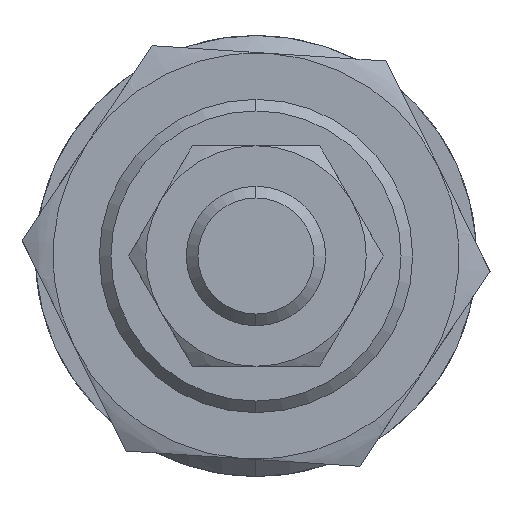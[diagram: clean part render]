
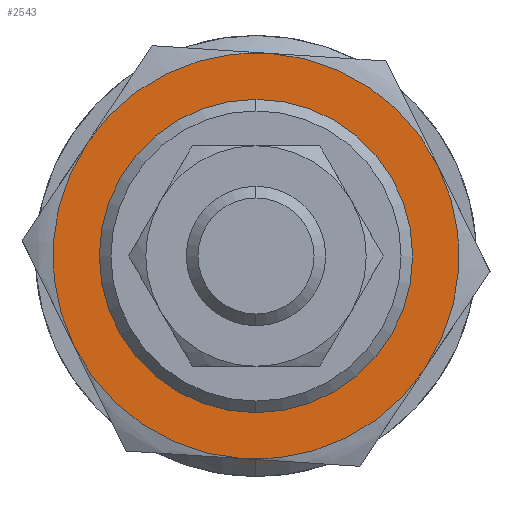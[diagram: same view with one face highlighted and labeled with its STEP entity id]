
A CAD part, left-side view. The second image highlights one B-rep face of the part: STEP entity #2543.
In plain terms, the highlighted planar face has unit normal (-1, 0, 0) as drawn and (0, 0, -1) by its records, which use the part's own axes.
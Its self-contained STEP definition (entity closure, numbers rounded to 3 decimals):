
#61 = ORIENTED_EDGE ( 'NONE', *, *, #421, .F. ) ;
#71 = CARTESIAN_POINT ( 'NONE',  ( 0., 0., -5. ) ) ;
#254 = CARTESIAN_POINT ( 'NONE',  ( 0., 0., -5. ) ) ;
#306 = DIRECTION ( 'NONE',  ( 1., 0., 0. ) ) ;
#421 = EDGE_CURVE ( 'NONE', #456, #948, #542, .T. ) ;
#456 = VERTEX_POINT ( 'NONE', #1793 ) ;
#495 = EDGE_CURVE ( 'NONE', #1187, #1467, #1691, .T. ) ;
#501 = CARTESIAN_POINT ( 'NONE',  ( 0., 0., -5. ) ) ;
#517 = AXIS2_PLACEMENT_3D ( 'NONE', #2737, #2584, #1048 ) ;
#542 = CIRCLE ( 'NONE', #2486, 17.5 ) ;
#544 = CIRCLE ( 'NONE', #677, 17.5 ) ;
#545 = CIRCLE ( 'NONE', #2027, 17.5 ) ;
#597 = CIRCLE ( 'NONE', #1184, 12.5 ) ;
#667 = CARTESIAN_POINT ( 'NONE',  ( 8.75, 15.155, -5. ) ) ;
#677 = AXIS2_PLACEMENT_3D ( 'NONE', #501, #1468, #1022 ) ;
#691 = CARTESIAN_POINT ( 'NONE',  ( 0., 0., -5. ) ) ;
#753 = EDGE_CURVE ( 'NONE', #2245, #456, #544, .T. ) ;
#853 = DIRECTION ( 'NONE',  ( 0., 0., 1. ) ) ;
#859 = CARTESIAN_POINT ( 'NONE',  ( 0., 0., -5. ) ) ;
#948 = VERTEX_POINT ( 'NONE', #667 ) ;
#952 = CARTESIAN_POINT ( 'NONE',  ( -8.75, -15.155, -5. ) ) ;
#1022 = DIRECTION ( 'NONE',  ( 1., 0., 0. ) ) ;
#1048 = DIRECTION ( 'NONE',  ( 1., 0., 0. ) ) ;
#1059 = DIRECTION ( 'NONE',  ( 0., 0., 1. ) ) ;
#1064 = EDGE_CURVE ( 'NONE', #3292, #3156, #1408, .T. ) ;
#1184 = AXIS2_PLACEMENT_3D ( 'NONE', #2047, #3283, #2494 ) ;
#1187 = VERTEX_POINT ( 'NONE', #1532 ) ;
#1263 = ORIENTED_EDGE ( 'NONE', *, *, #495, .T. ) ;
#1282 = CARTESIAN_POINT ( 'NONE',  ( 0., 0., -5. ) ) ;
#1285 = EDGE_CURVE ( 'NONE', #948, #3292, #545, .T. ) ;
#1338 = DIRECTION ( 'NONE',  ( 1., 0., 0. ) ) ;
#1355 = EDGE_LOOP ( 'NONE', ( #2035, #1263 ) ) ;
#1393 = EDGE_CURVE ( 'NONE', #1467, #1187, #597, .T. ) ;
#1408 = CIRCLE ( 'NONE', #1783, 17.5 ) ;
#1465 = EDGE_LOOP ( 'NONE', ( #61, #1693, #3332, #1801, #2256, #3256 ) ) ;
#1467 = VERTEX_POINT ( 'NONE', #3252 ) ;
#1468 = DIRECTION ( 'NONE',  ( 0., 0., 1. ) ) ;
#1532 = CARTESIAN_POINT ( 'NONE',  ( -12.5, 0., -5. ) ) ;
#1691 = CIRCLE ( 'NONE', #2632, 12.5 ) ;
#1693 = ORIENTED_EDGE ( 'NONE', *, *, #753, .F. ) ;
#1743 = FACE_OUTER_BOUND ( 'NONE', #1465, .T. ) ;
#1751 = DIRECTION ( 'NONE',  ( 0., 0., 1. ) ) ;
#1783 = AXIS2_PLACEMENT_3D ( 'NONE', #71, #2315, #2148 ) ;
#1793 = CARTESIAN_POINT ( 'NONE',  ( 17.5, 0., -5. ) ) ;
#1801 = ORIENTED_EDGE ( 'NONE', *, *, #2222, .F. ) ;
#1901 = EDGE_CURVE ( 'NONE', #1917, #2245, #3398, .T. ) ;
#1910 = CARTESIAN_POINT ( 'NONE',  ( -17.5, 0., -5. ) ) ;
#1917 = VERTEX_POINT ( 'NONE', #952 ) ;
#1932 = CARTESIAN_POINT ( 'NONE',  ( 0., 0., -5. ) ) ;
#2027 = AXIS2_PLACEMENT_3D ( 'NONE', #859, #1751, #2171 ) ;
#2034 = DIRECTION ( 'NONE',  ( 0., 0., 1. ) ) ;
#2035 = ORIENTED_EDGE ( 'NONE', *, *, #1393, .T. ) ;
#2039 = AXIS2_PLACEMENT_3D ( 'NONE', #1282, #3427, #1338 ) ;
#2047 = CARTESIAN_POINT ( 'NONE',  ( 0., 0., -5. ) ) ;
#2098 = CIRCLE ( 'NONE', #517, 17.5 ) ;
#2139 = CARTESIAN_POINT ( 'NONE',  ( 8.75, -15.155, -5. ) ) ;
#2148 = DIRECTION ( 'NONE',  ( 1., 0., 0. ) ) ;
#2171 = DIRECTION ( 'NONE',  ( 1., 0., 0. ) ) ;
#2191 = AXIS2_PLACEMENT_3D ( 'NONE', #1932, #853, #3294 ) ;
#2222 = EDGE_CURVE ( 'NONE', #3156, #1917, #2098, .T. ) ;
#2245 = VERTEX_POINT ( 'NONE', #2139 ) ;
#2256 = ORIENTED_EDGE ( 'NONE', *, *, #1064, .F. ) ;
#2315 = DIRECTION ( 'NONE',  ( 0., 0., 1. ) ) ;
#2437 = FACE_BOUND ( 'NONE', #1355, .T. ) ;
#2486 = AXIS2_PLACEMENT_3D ( 'NONE', #691, #2034, #3212 ) ;
#2494 = DIRECTION ( 'NONE',  ( 1., 0., 0. ) ) ;
#2543 = ADVANCED_FACE ( 'NONE', ( #2437, #1743 ), #3124, .F. ) ;
#2584 = DIRECTION ( 'NONE',  ( 0., 0., 1. ) ) ;
#2632 = AXIS2_PLACEMENT_3D ( 'NONE', #254, #1059, #306 ) ;
#2737 = CARTESIAN_POINT ( 'NONE',  ( 0., 0., -5. ) ) ;
#3124 = PLANE ( 'NONE',  #2191 ) ;
#3156 = VERTEX_POINT ( 'NONE', #1910 ) ;
#3212 = DIRECTION ( 'NONE',  ( 1., 0., 0. ) ) ;
#3252 = CARTESIAN_POINT ( 'NONE',  ( 12.5, 0., -5. ) ) ;
#3256 = ORIENTED_EDGE ( 'NONE', *, *, #1285, .F. ) ;
#3283 = DIRECTION ( 'NONE',  ( 0., 0., 1. ) ) ;
#3292 = VERTEX_POINT ( 'NONE', #3390 ) ;
#3294 = DIRECTION ( 'NONE',  ( 1., 0., 0. ) ) ;
#3332 = ORIENTED_EDGE ( 'NONE', *, *, #1901, .F. ) ;
#3390 = CARTESIAN_POINT ( 'NONE',  ( -8.75, 15.155, -5. ) ) ;
#3398 = CIRCLE ( 'NONE', #2039, 17.5 ) ;
#3427 = DIRECTION ( 'NONE',  ( 0., 0., 1. ) ) ;
